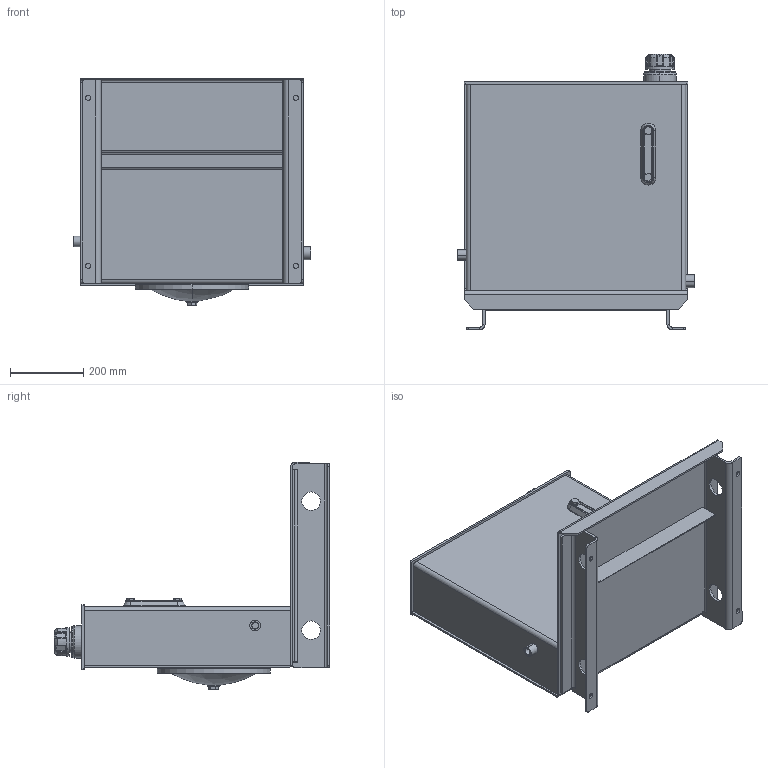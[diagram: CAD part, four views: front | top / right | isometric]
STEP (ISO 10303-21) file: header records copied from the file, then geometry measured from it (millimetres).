
FILE_DESCRIPTION (( 'STEP AP203' ), '1' );
FILE_NAME ('RLC010-FT.STEP', '2015-01-07T16:54:41', ( '' ), ( '' ), 'SwSTEP 2.0', 'SolidWorks 2014', '' );
FILE_SCHEMA (( 'CONFIG_CONTROL_DESIGN' ));
Length unit declared in the file: inch
Products named in the file (1): RLC010-FT
Bounding box: 647.7 x 750.19 x 619.39 mm (x, y, z)
Volume: 8412993.1 mm3; surface area: 3588936.3 mm2
Topology: 20 solids, 20 shells, 695 faces, 1639 edges, 983 vertices
Faces by surface type: cylinder 254, plane 236, cone 82, torus 49, bspline 46, sphere 28
Entity records: 22218 total; most frequent: CARTESIAN_POINT 5980, DIRECTION 3549, ORIENTED_EDGE 3254, EDGE_CURVE 1627, AXIS2_PLACEMENT_3D 1404, VERTEX_POINT 983, EDGE_LOOP 798, CIRCLE 754
